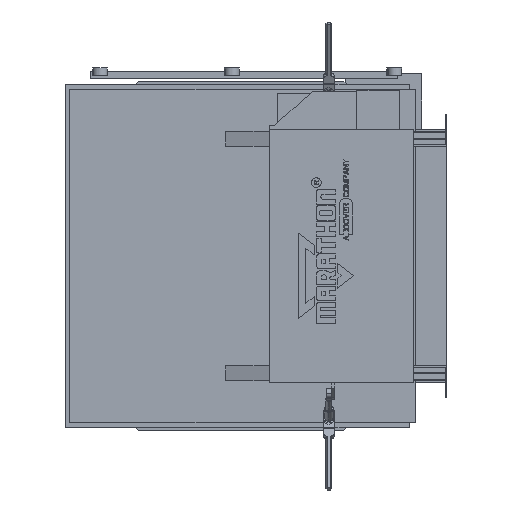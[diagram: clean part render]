
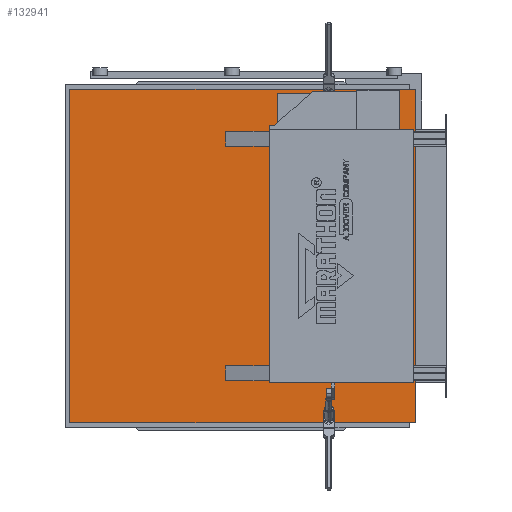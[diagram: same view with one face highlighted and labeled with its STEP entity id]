
A CAD part, left-side view. The second image highlights one B-rep face of the part: STEP entity #132941.
In plain terms, the highlighted planar face has unit normal (-1, 0, 0).
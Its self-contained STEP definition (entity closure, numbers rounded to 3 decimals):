
#132862=DIRECTION('',(0.,0.,1.));
#132863=VECTOR('',#132862,91.);
#132864=CARTESIAN_POINT('',(-131.875,8.558,-45.5));
#132865=LINE('',#132864,#132863);
#132866=DIRECTION('',(0.,-1.,0.));
#132867=VECTOR('',#132866,94.25);
#132868=CARTESIAN_POINT('',(-131.875,102.808,-45.5));
#132869=LINE('',#132868,#132867);
#132870=DIRECTION('',(0.,0.,-1.));
#132871=VECTOR('',#132870,91.);
#132872=CARTESIAN_POINT('',(-131.875,102.808,45.5));
#132873=LINE('',#132872,#132871);
#132874=DIRECTION('',(0.,1.,0.));
#132875=VECTOR('',#132874,94.25);
#132876=CARTESIAN_POINT('',(-131.875,8.558,45.5));
#132877=LINE('',#132876,#132875);
#132910=CARTESIAN_POINT('',(-131.875,8.558,-45.5));
#132911=CARTESIAN_POINT('',(-131.875,8.558,45.5));
#132912=VERTEX_POINT('',#132910);
#132913=VERTEX_POINT('',#132911);
#132914=CARTESIAN_POINT('',(-131.875,102.808,45.5));
#132915=VERTEX_POINT('',#132914);
#132916=CARTESIAN_POINT('',(-131.875,102.808,-45.5));
#132917=VERTEX_POINT('',#132916);
#132926=CARTESIAN_POINT('',(-131.875,0.,-34.565));
#132927=DIRECTION('',(-1.,0.,0.));
#132928=DIRECTION('',(0.,0.,1.));
#132929=AXIS2_PLACEMENT_3D('',#132926,#132927,#132928);
#132930=PLANE('',#132929);
#132932=ORIENTED_EDGE('',*,*,#132931,.F.);
#132934=ORIENTED_EDGE('',*,*,#132933,.F.);
#132936=ORIENTED_EDGE('',*,*,#132935,.F.);
#132938=ORIENTED_EDGE('',*,*,#132937,.F.);
#132939=EDGE_LOOP('',(#132932,#132934,#132936,#132938));
#132940=FACE_OUTER_BOUND('',#132939,.F.);
#132941=ADVANCED_FACE('',(#132940),#132930,.T.);
#132931=EDGE_CURVE('',#132912,#132913,#132865,.T.);
#132933=EDGE_CURVE('',#132917,#132912,#132869,.T.);
#132935=EDGE_CURVE('',#132915,#132917,#132873,.T.);
#132937=EDGE_CURVE('',#132913,#132915,#132877,.T.);
